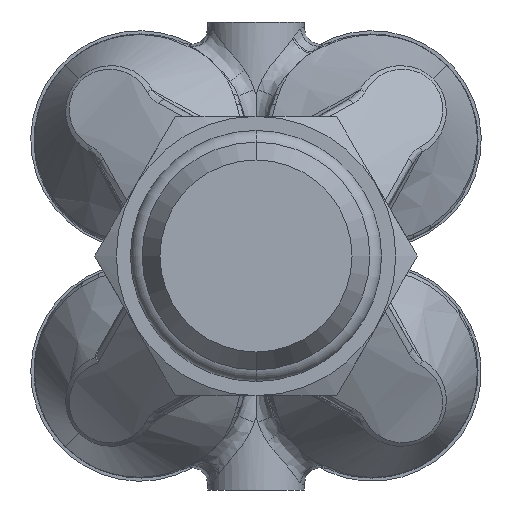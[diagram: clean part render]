
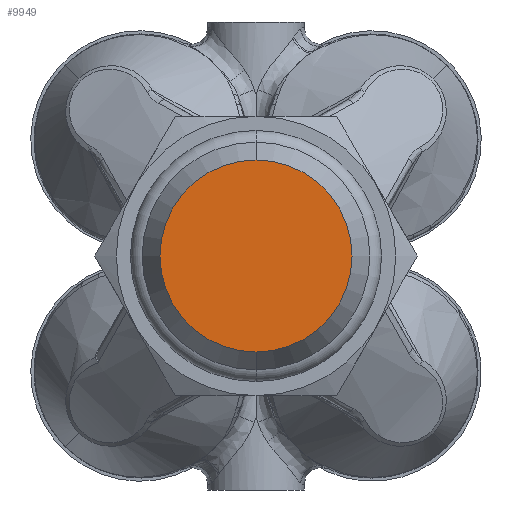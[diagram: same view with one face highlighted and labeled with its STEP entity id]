
A CAD part, front view. The second image highlights one B-rep face of the part: STEP entity #9949.
In plain terms, the highlighted planar face has unit normal (0, -1, 0).
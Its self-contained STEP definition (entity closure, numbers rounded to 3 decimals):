
#1165 = DIRECTION ( 'NONE',  ( 0., -1., 0. ) ) ;
#4164 = FACE_OUTER_BOUND ( 'NONE', #26591, .T. ) ;
#4753 = ORIENTED_EDGE ( 'NONE', *, *, #16472, .T. ) ;
#8706 = CARTESIAN_POINT ( 'NONE',  ( 0., -8., 5.5 ) ) ;
#9949 = ADVANCED_FACE ( 'Defeature completata1_482', ( #4164 ), #10166, .T. ) ;
#10166 = PLANE ( 'NONE',  #18527 ) ;
#11482 = VERTEX_POINT ( 'NONE', #8706 ) ;
#12111 = DIRECTION ( 'NONE',  ( 0., -1., 0. ) ) ;
#13065 = DIRECTION ( 'NONE',  ( 0., 0., -1. ) ) ;
#13093 = AXIS2_PLACEMENT_3D ( 'NONE', #18365, #1165, #21239 ) ;
#16472 = EDGE_CURVE ( 'Defeature completata1_482+Defeature completata1_481+Defeature completata1_481+Defeature completata1_481', #11482, #17234, #28226, .T. ) ;
#17234 = VERTEX_POINT ( 'NONE', #27921 ) ;
#18365 = CARTESIAN_POINT ( 'NONE',  ( 0., -8., 0. ) ) ;
#18527 = AXIS2_PLACEMENT_3D ( 'NONE', #35745, #30256, #13065 ) ;
#18575 = AXIS2_PLACEMENT_3D ( 'NONE', #29281, #12111, #32175 ) ;
#21239 = DIRECTION ( 'NONE',  ( 0., 0., -1. ) ) ;
#23281 = CIRCLE ( 'NONE', #18575, 5.5 ) ;
#23447 = ORIENTED_EDGE ( 'NONE', *, *, #36266, .T. ) ;
#26591 = EDGE_LOOP ( 'NONE', ( #4753, #23447 ) ) ;
#27921 = CARTESIAN_POINT ( 'NONE',  ( 0., -8., -5.5 ) ) ;
#28226 = CIRCLE ( 'NONE', #13093, 5.5 ) ;
#29281 = CARTESIAN_POINT ( 'NONE',  ( 0., -8., 0. ) ) ;
#30256 = DIRECTION ( 'NONE',  ( 0., -1., 0. ) ) ;
#32175 = DIRECTION ( 'NONE',  ( 0., 0., -1. ) ) ;
#35745 = CARTESIAN_POINT ( 'NONE',  ( 0., -8., 0. ) ) ;
#36266 = EDGE_CURVE ( 'Defeature completata1_482+Defeature completata1_481+Defeature completata1_481+Defeature completata1_481', #17234, #11482, #23281, .T. ) ;
